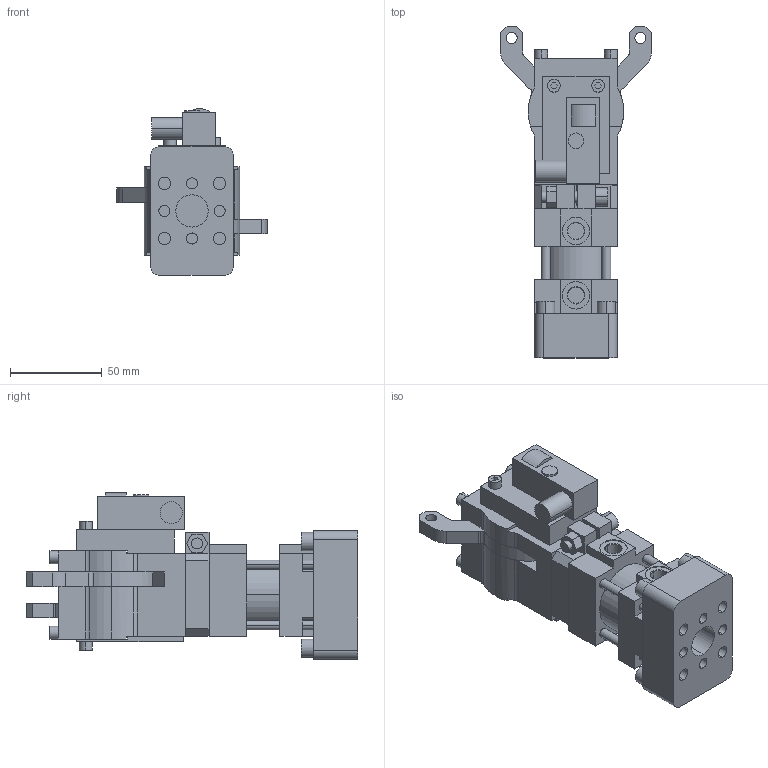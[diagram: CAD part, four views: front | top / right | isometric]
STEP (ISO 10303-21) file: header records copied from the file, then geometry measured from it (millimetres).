
FILE_DESCRIPTION (( 'STEP AP214' ), '1' );
FILE_NAME ('b32_bxsx_pla___x_c.STEP', '2018-05-08T12:53:45', ( 'vepadmin' ), ( 'Hewlett-Packard Company' ), 'SwSTEP 2.0', 'SolidWorks 2018', '' );
FILE_SCHEMA (( 'AUTOMOTIVE_DESIGN' ));
Length unit declared in the file: millimetre
Products named in the file (9): gruppo_cilindro_piastra_c_b32; distanziale_b32; riparo_micro_b32; blocchetto_p&f_90; scatola_micro_b32; leva_b32b; gruppo_montante_b32b; b32_bxsx_pla___x_c; attacco_c_b32
Assembly tree (9 placements, depth 2):
  b32_bxsx_pla___x_c
    gruppo_montante_b32b
    leva_b32b  x2
    scatola_micro_b32
    blocchetto_p&f_90
    riparo_micro_b32
    distanziale_b32
    gruppo_cilindro_piastra_c_b32
    attacco_c_b32
Bounding box: 82 x 180.5 x 90.6 mm (x, y, z)
Volume: 384465.5 mm3; surface area: 99406.3 mm2
Topology: 9 solids, 9 shells, 494 faces, 1239 edges, 820 vertices
Faces by surface type: plane 314, cylinder 174, cone 6
Entity records: 14481 total; most frequent: DIRECTION 2447, CARTESIAN_POINT 2407, ORIENTED_EDGE 2322, EDGE_CURVE 1161, LINE 831, VECTOR 831, AXIS2_PLACEMENT_3D 808, VERTEX_POINT 768
